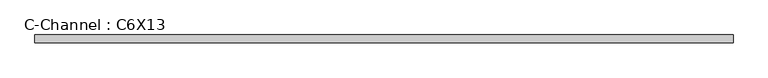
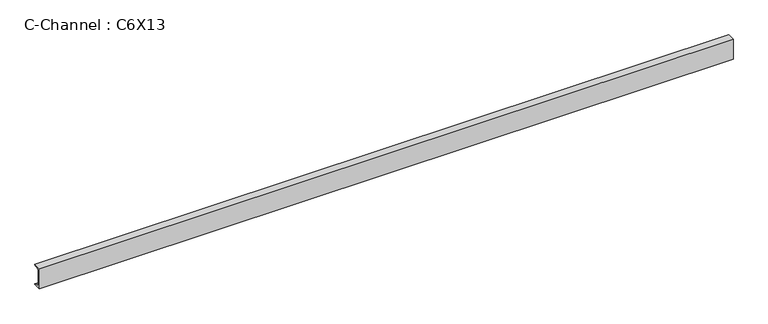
"""IFC4 building model written with IfcOpenShell, lengths in millimetres: beam geometry, C-Channel : C6X13."""

from ifc_helpers import new_model, si_unit, point, frame, frame_2d, origin, place, context, project, spatial, polyline, circle_curve, trimmed, segment, composite_curve, outline, extrude, source, transform, mapped, element, save


def c_channel_c6x13_7d914799(model_context):
    return source(origin(), model_context, "Body", "SweptSolid", [
        extrude(outline(composite_curve([segment(polyline([(-13.0556, 76.2), (41.8084, 76.2)]), True, "CONTINUOUS"), segment(trimmed(circle_curve(frame_2d((33.0962, 76.2)), 8.7122), [point((41.8084, 76.2))], [point((33.0962, 67.4878))], False, "CARTESIAN"), True, "CONTINUOUS"), segment(polyline([(33.0962, 67.4878), (-1.9558, 61.9361086), (-1.9558, -61.9361086), (33.0962, -67.4878)]), True, "CONTINUOUS"), segment(trimmed(circle_curve(frame_2d((33.0962, -76.2)), 8.7122), [point((33.0962, -67.4878))], [point((41.8084, -76.2))], False, "CARTESIAN"), True, "CONTINUOUS"), segment(polyline([(41.8084, -76.2), (-13.0556, -76.2), (-13.0556, 76.2)]), True, "CONTINUOUS")], self_intersect=False)), frame((-2487.3002291, 0.0, 0.0), z_axis=(1.0, 0.0, 0.0), x_axis=(0.0, 1.0, 0.0)), (0.0, 0.0, 1.0), 4974.5651583),
    ])


if __name__ == "__main__":
    model = new_model("IFC4")
    model_context = context("Model", 3, world=origin())
    ifc_project = project(units=[si_unit("LENGTHUNIT", "METRE", prefix="MILLI")], contexts=[model_context])
    site = spatial("IfcSite", under=ifc_project)
    building = spatial("IfcBuilding", under=site)
    placement = place(None, origin())
    c_channel_c6x13_shape = c_channel_c6x13_7d914799(model_context)
    element("IfcBeam", 1, ObjectType="C-Channel : C6X13", at=placement, inside=building, context=model_context, shape_type="MappedRepresentation", body=[
        mapped(c_channel_c6x13_shape, transform((0.0, 0.0, 0.0), x_axis=(1.0, 0.0, 0.0), y_axis=(0.0, 1.0, 0.0), z_axis=(0.0, 0.0, 1.0))),
    ])
    save(model, "model.ifc")
